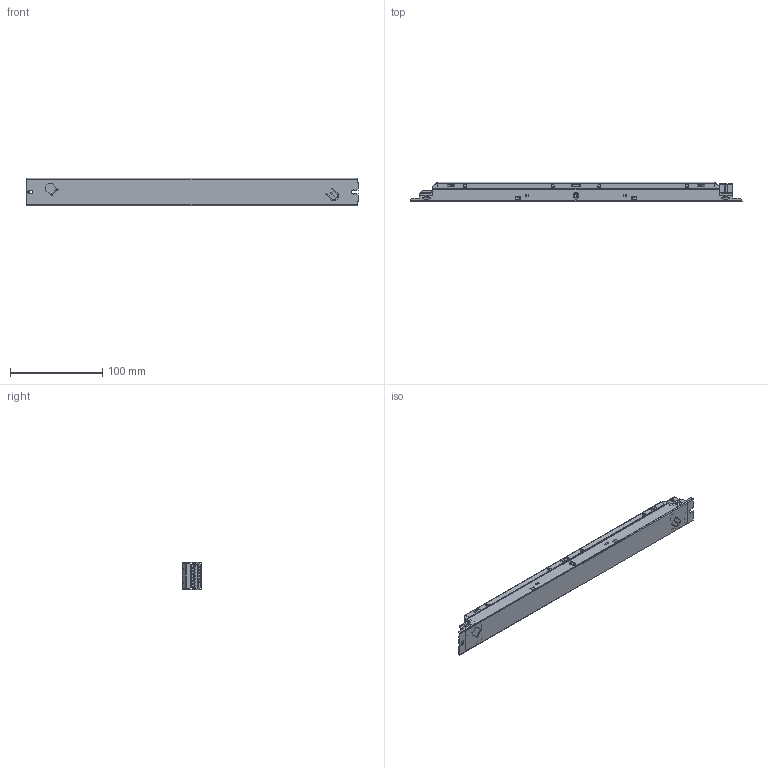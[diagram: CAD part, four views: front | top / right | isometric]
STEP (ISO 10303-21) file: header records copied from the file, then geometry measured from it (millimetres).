
FILE_DESCRIPTION (( 'STEP AP203' ), '1' );
FILE_NAME ('3593621swm000.step', '2017-11-08T06:50:56', ( 'OSRAM' ), ( 'OSRAM' ), 'SwSTEP 2.0', 'SolidWorks 2015', '' );
FILE_SCHEMA (( 'CONFIG_CONTROL_DESIGN' ));
Length unit declared in the file: millimetre
Products named in the file (8): 3533908swm000; 3593625swm000; 3536333swm000_Phillips-like; 3559669swm000; 3536324swm000; 3593621swm000; 3551981swm000; 3453151swm000
Assembly tree (8 placements, depth 3):
  3593621swm000
    3551981swm000
    3453151swm000
    3533908swm000  x2
    3593625swm000
    3536324swm000
      3536333swm000_Phillips-like
      3559669swm000
Bounding box: 359 x 21 x 30 mm (x, y, z)
Volume: 35237.3 mm3; surface area: 100290.1 mm2
Topology: 9 solids, 9 shells, 2704 faces, 7238 edges, 4625 vertices
Faces by surface type: plane 1271, cylinder 1067, bspline 286, sphere 54, cone 26
Entity records: 88030 total; most frequent: CARTESIAN_POINT 28185, ORIENTED_EDGE 12588, DIRECTION 11775, EDGE_CURVE 6294, AXIS2_PLACEMENT_3D 4018, VERTEX_POINT 4015, VECTOR 3739, LINE 3739
